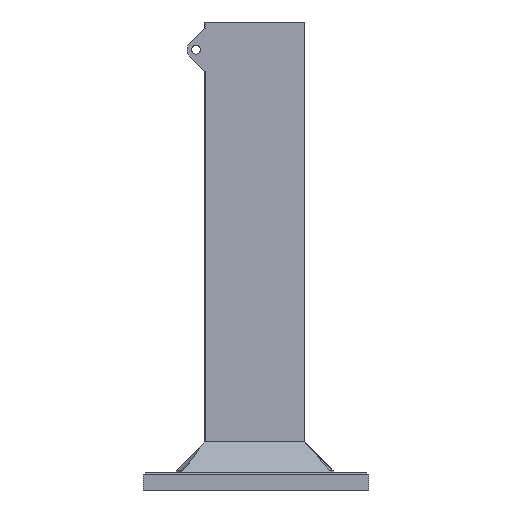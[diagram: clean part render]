
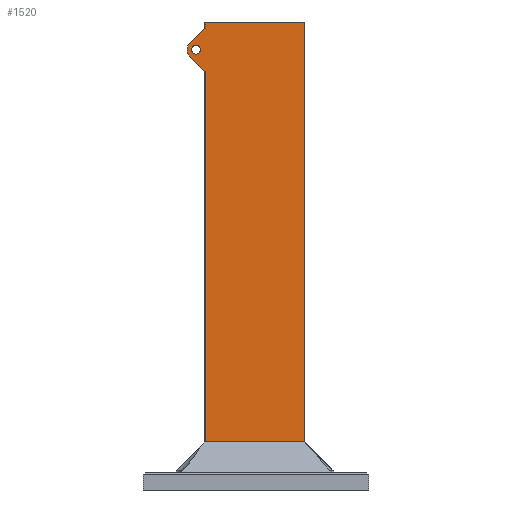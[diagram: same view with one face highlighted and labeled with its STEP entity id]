
A CAD part, front view. The second image highlights one B-rep face of the part: STEP entity #1520.
In plain terms, the highlighted planar face has unit normal (0, -1, 0).
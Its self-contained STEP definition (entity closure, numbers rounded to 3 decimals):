
#34 = DIRECTION ( 'NONE',  ( 0., 0., -1. ) ) ;
#58 = DIRECTION ( 'NONE',  ( 1., 0., 0. ) ) ;
#92 = AXIS2_PLACEMENT_3D ( 'NONE', #378, #1154, #1184 ) ;
#98 = CARTESIAN_POINT ( 'NONE',  ( 149.696, 278.123, 140.757 ) ) ;
#143 = PLANE ( 'NONE',  #1443 ) ;
#196 = VERTEX_POINT ( 'NONE', #1925 ) ;
#202 = ORIENTED_EDGE ( 'NONE', *, *, #680, .T. ) ;
#217 = CARTESIAN_POINT ( 'NONE',  ( 185.696, 278.123, 150. ) ) ;
#269 = VECTOR ( 'NONE', #1653, 1000. ) ;
#291 = AXIS2_PLACEMENT_3D ( 'NONE', #2313, #582, #1563 ) ;
#302 = AXIS2_PLACEMENT_3D ( 'NONE', #98, #1224, #2186 ) ;
#314 = CARTESIAN_POINT ( 'NONE',  ( 147.574, 278.123, 138.636 ) ) ;
#320 = DIRECTION ( 'NONE',  ( 0., 0., 1. ) ) ;
#378 = CARTESIAN_POINT ( 'NONE',  ( 149.696, 278.123, 140.757 ) ) ;
#395 = VECTOR ( 'NONE', #1440, 1000. ) ;
#416 = VECTOR ( 'NONE', #34, 1000. ) ;
#428 = VERTEX_POINT ( 'NONE', #887 ) ;
#431 = EDGE_CURVE ( 'NONE', #1542, #935, #1428, .T. ) ;
#448 = VERTEX_POINT ( 'NONE', #497 ) ;
#451 = VERTEX_POINT ( 'NONE', #314 ) ;
#482 = LINE ( 'NONE', #1425, #1202 ) ;
#497 = CARTESIAN_POINT ( 'NONE',  ( 152.696, 278.123, 133.515 ) ) ;
#501 = FACE_BOUND ( 'NONE', #729, .T. ) ;
#551 = CARTESIAN_POINT ( 'NONE',  ( 152.696, 278.123, 10. ) ) ;
#563 = CARTESIAN_POINT ( 'NONE',  ( 185.696, 278.123, 150. ) ) ;
#569 = LINE ( 'NONE', #217, #1364 ) ;
#582 = DIRECTION ( 'NONE',  ( 0., -1., 0. ) ) ;
#606 = LINE ( 'NONE', #2135, #416 ) ;
#610 = VERTEX_POINT ( 'NONE', #2394 ) ;
#635 = DIRECTION ( 'NONE',  ( 0.707, 0., -0.707 ) ) ;
#680 = EDGE_CURVE ( 'NONE', #2286, #196, #482, .T. ) ;
#701 = VERTEX_POINT ( 'NONE', #1258 ) ;
#706 = CIRCLE ( 'NONE', #302, 1.5 ) ;
#712 = EDGE_CURVE ( 'NONE', #451, #448, #1628, .T. ) ;
#729 = EDGE_LOOP ( 'NONE', ( #2384, #1518 ) ) ;
#791 = LINE ( 'NONE', #563, #2076 ) ;
#841 = ORIENTED_EDGE ( 'NONE', *, *, #952, .F. ) ;
#852 = CARTESIAN_POINT ( 'NONE',  ( 147.574, 278.123, 138.636 ) ) ;
#855 = CARTESIAN_POINT ( 'NONE',  ( 152.696, 278.123, 148. ) ) ;
#857 = CIRCLE ( 'NONE', #291, 3. ) ;
#863 = EDGE_CURVE ( 'NONE', #610, #701, #2350, .T. ) ;
#880 = EDGE_CURVE ( 'NONE', #935, #451, #857, .T. ) ;
#887 = CARTESIAN_POINT ( 'NONE',  ( 185.696, 278.123, 150. ) ) ;
#904 = FACE_OUTER_BOUND ( 'NONE', #2455, .T. ) ;
#906 = EDGE_CURVE ( 'NONE', #448, #2286, #606, .T. ) ;
#935 = VERTEX_POINT ( 'NONE', #1552 ) ;
#952 = EDGE_CURVE ( 'NONE', #2242, #428, #791, .T. ) ;
#968 = ORIENTED_EDGE ( 'NONE', *, *, #712, .T. ) ;
#986 = ORIENTED_EDGE ( 'NONE', *, *, #880, .T. ) ;
#1001 = ORIENTED_EDGE ( 'NONE', *, *, #2326, .T. ) ;
#1086 = CARTESIAN_POINT ( 'NONE',  ( 152.696, 278.123, 150. ) ) ;
#1154 = DIRECTION ( 'NONE',  ( 0., -1., 0. ) ) ;
#1184 = DIRECTION ( 'NONE',  ( 0., 0., -1. ) ) ;
#1202 = VECTOR ( 'NONE', #58, 1000. ) ;
#1224 = DIRECTION ( 'NONE',  ( 0., -1., 0. ) ) ;
#1241 = EDGE_CURVE ( 'NONE', #701, #610, #706, .T. ) ;
#1258 = CARTESIAN_POINT ( 'NONE',  ( 149.696, 278.123, 142.257 ) ) ;
#1275 = DIRECTION ( 'NONE',  ( 0., 1., 0. ) ) ;
#1278 = ORIENTED_EDGE ( 'NONE', *, *, #431, .T. ) ;
#1279 = LINE ( 'NONE', #2229, #269 ) ;
#1318 = CARTESIAN_POINT ( 'NONE',  ( 185.696, 278.123, 150. ) ) ;
#1322 = CARTESIAN_POINT ( 'NONE',  ( 152.696, 278.123, 148. ) ) ;
#1364 = VECTOR ( 'NONE', #2131, 1000. ) ;
#1425 = CARTESIAN_POINT ( 'NONE',  ( 185.696, 278.123, 10. ) ) ;
#1428 = LINE ( 'NONE', #855, #395 ) ;
#1440 = DIRECTION ( 'NONE',  ( -0.707, 0., -0.707 ) ) ;
#1443 = AXIS2_PLACEMENT_3D ( 'NONE', #1318, #1275, #320 ) ;
#1518 = ORIENTED_EDGE ( 'NONE', *, *, #1241, .F. ) ;
#1520 = ADVANCED_FACE ( 'NONE', ( #904, #501 ), #143, .F. ) ;
#1533 = ORIENTED_EDGE ( 'NONE', *, *, #906, .T. ) ;
#1542 = VERTEX_POINT ( 'NONE', #1322 ) ;
#1546 = DIRECTION ( 'NONE',  ( 1., 0., 0. ) ) ;
#1552 = CARTESIAN_POINT ( 'NONE',  ( 147.574, 278.123, 142.879 ) ) ;
#1563 = DIRECTION ( 'NONE',  ( 0., 0., -1. ) ) ;
#1614 = EDGE_CURVE ( 'NONE', #428, #196, #569, .T. ) ;
#1628 = LINE ( 'NONE', #852, #1848 ) ;
#1653 = DIRECTION ( 'NONE',  ( 0., 0., -1. ) ) ;
#1848 = VECTOR ( 'NONE', #635, 1000. ) ;
#1925 = CARTESIAN_POINT ( 'NONE',  ( 185.696, 278.123, 10. ) ) ;
#2076 = VECTOR ( 'NONE', #1546, 1000. ) ;
#2131 = DIRECTION ( 'NONE',  ( 0., 0., -1. ) ) ;
#2135 = CARTESIAN_POINT ( 'NONE',  ( 152.696, 278.123, 150. ) ) ;
#2186 = DIRECTION ( 'NONE',  ( 0., 0., -1. ) ) ;
#2229 = CARTESIAN_POINT ( 'NONE',  ( 152.696, 278.123, 150. ) ) ;
#2242 = VERTEX_POINT ( 'NONE', #1086 ) ;
#2286 = VERTEX_POINT ( 'NONE', #551 ) ;
#2313 = CARTESIAN_POINT ( 'NONE',  ( 149.696, 278.123, 140.757 ) ) ;
#2326 = EDGE_CURVE ( 'NONE', #2242, #1542, #1279, .T. ) ;
#2347 = ORIENTED_EDGE ( 'NONE', *, *, #1614, .F. ) ;
#2350 = CIRCLE ( 'NONE', #92, 1.5 ) ;
#2384 = ORIENTED_EDGE ( 'NONE', *, *, #863, .F. ) ;
#2394 = CARTESIAN_POINT ( 'NONE',  ( 149.696, 278.123, 139.257 ) ) ;
#2455 = EDGE_LOOP ( 'NONE', ( #1001, #1278, #986, #968, #1533, #202, #2347, #841 ) ) ;
